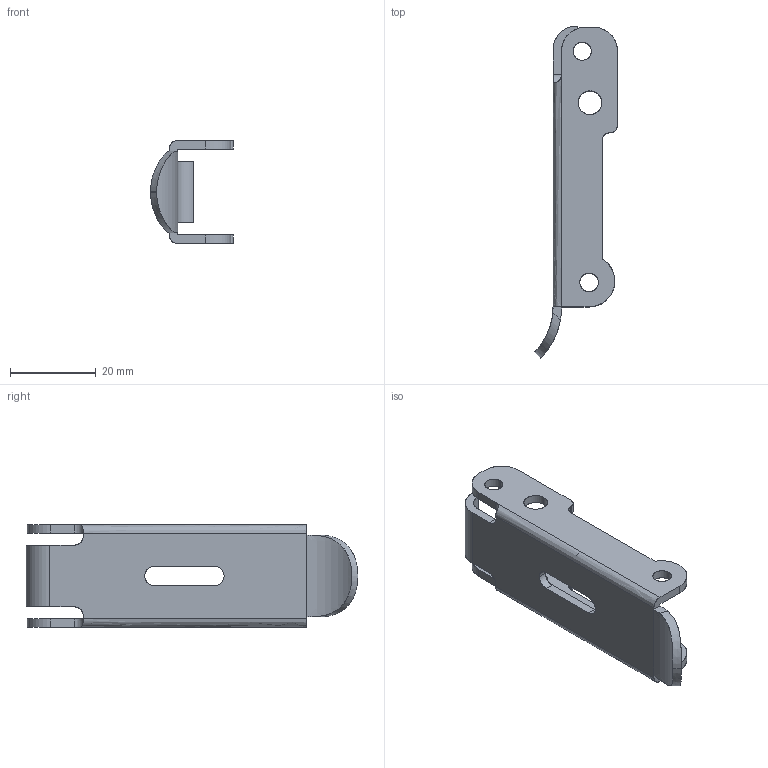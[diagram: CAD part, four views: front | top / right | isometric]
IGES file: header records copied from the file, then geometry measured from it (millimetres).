
Start section: SolidWorks IGES FILE using analytic representation for surfaces
Global section: file name: C:\Documents and Settings\brechard\Bureau\GE 92\79.010.10.IGS; native system: SolidWorks 2001Plus by SolidWorks Corporation; preprocessor: Version 5.3; author: brechard; date: 050126.112447; units: millimetre
Bounding box: 19.3 x 77.41 x 24 mm (x, y, z)
Surface area: 6573.6 mm2 (no closed solid volume)
Topology: 0 solids, 0 shells, 97 faces, 1272 edges, 1242 vertices
Faces by surface type: revolution 68, bspline 29
